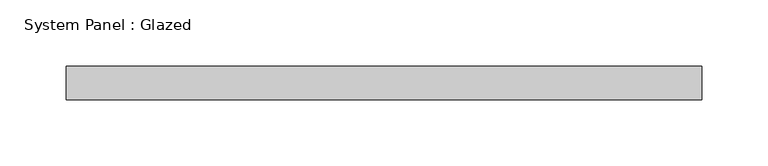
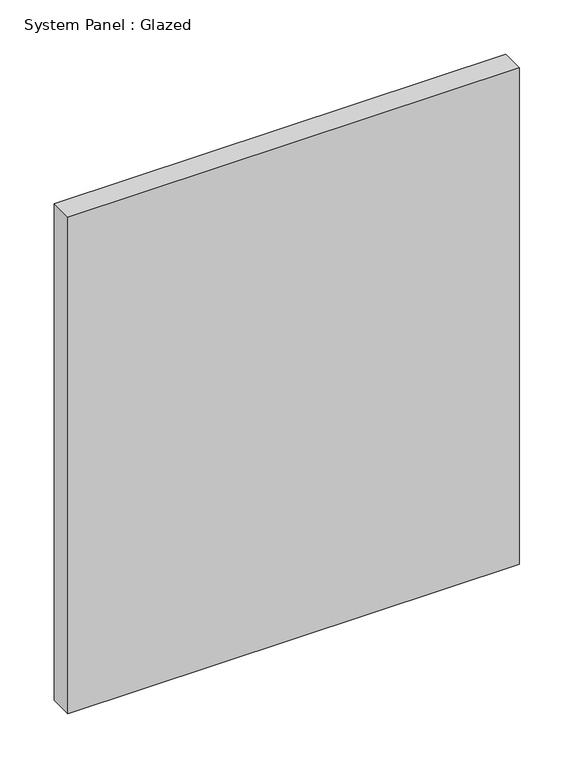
"""IFC4 building model written with IfcOpenShell, lengths in millimetres: plate geometry, System Panel : Glazed."""

from ifc_helpers import new_model, si_unit, origin, origin_with_axes, place, context, project, spatial, polyline, outline, extrude, source, transform, mapped, element, save


def system_panel_glazed_70237ed9(model_context):
    return source(origin(), model_context, "Body", "SweptSolid", [
        extrude(outline(polyline([(240.3420247, -12.7), (-240.3420247, -12.7), (-240.3420247, 12.7), (240.3420247, 12.7), (240.3420247, -12.7)])), origin_with_axes(), (0.0, 0.0, 1.0), 558.8),
    ])


if __name__ == "__main__":
    model = new_model("IFC4")
    model_context = context("Model", 3, world=origin())
    ifc_project = project(units=[si_unit("LENGTHUNIT", "METRE", prefix="MILLI")], contexts=[model_context])
    site = spatial("IfcSite", under=ifc_project)
    building = spatial("IfcBuilding", under=site)
    placement = place(None, origin())
    system_panel_glazed_shape = system_panel_glazed_70237ed9(model_context)
    element("IfcPlate", 1, ObjectType="System Panel : Glazed", at=placement, inside=building, context=model_context, shape_type="MappedRepresentation", body=[
        mapped(system_panel_glazed_shape, transform((0.0, 0.0, 0.0), x_axis=(1.0, 0.0, 0.0), y_axis=(0.0, 1.0, 0.0), z_axis=(0.0, 0.0, 1.0))),
    ])
    save(model, "model.ifc")
